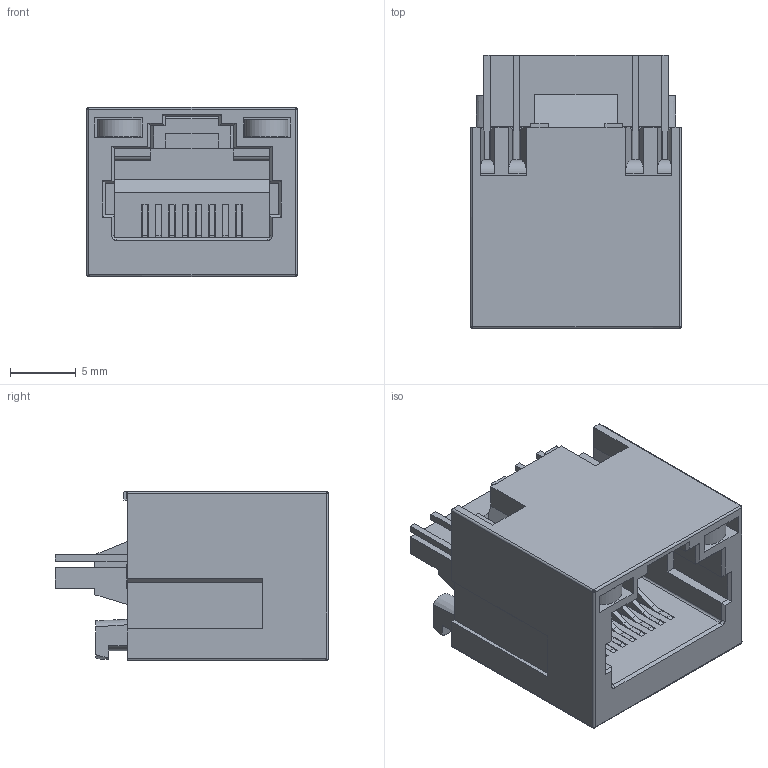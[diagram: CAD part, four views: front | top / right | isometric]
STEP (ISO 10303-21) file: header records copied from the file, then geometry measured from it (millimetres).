
FILE_DESCRIPTION((''),'2;1');
FILE_NAME('52W_8P_0001','2025-06-27T08:31:29',('DGKYD'),(''),'CREO PARAMETRIC BY PTC INC, 2019010','CREO PARAMETRIC BY PTC INC, 2019010','');
FILE_SCHEMA(('CONFIG_CONTROL_DESIGN'));
Length unit declared in the file: millimetre
Products named in the file (1): 52W_8P_0001
Bounding box: 16 x 20.75 x 12.85 mm (x, y, z)
Volume: 2051.6 mm3; surface area: 3290.6 mm2
Topology: 1 solids, 1 shells, 761 faces, 2254 edges, 1412 vertices
Faces by surface type: plane 626, cylinder 121, sphere 8, cone 6
Entity records: 25049 total; most frequent: CARTESIAN_POINT 4542, ORIENTED_EDGE 4492, DIRECTION 4000, EDGE_CURVE 2246, VECTOR 1974, LINE 1974, VERTEX_POINT 1412, AXIS2_PLACEMENT_3D 1013
